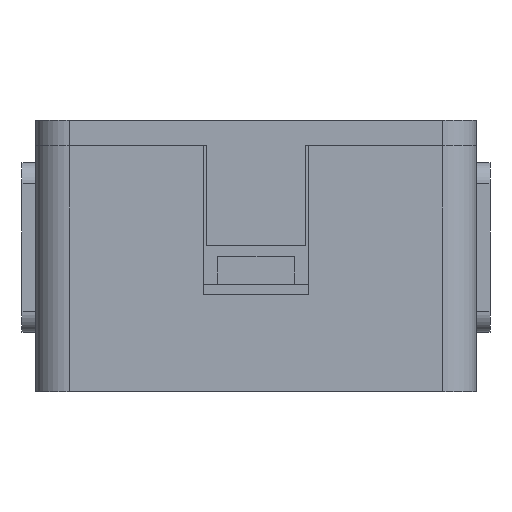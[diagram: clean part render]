
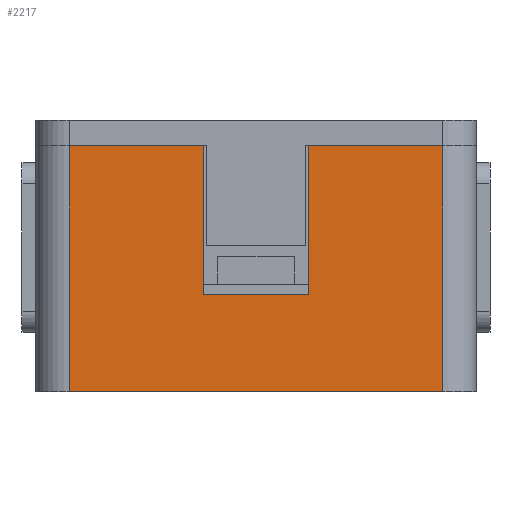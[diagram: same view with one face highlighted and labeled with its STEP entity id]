
A CAD part, left-side view. The second image highlights one B-rep face of the part: STEP entity #2217.
In plain terms, the highlighted planar face has unit normal (-1, 0, 0).
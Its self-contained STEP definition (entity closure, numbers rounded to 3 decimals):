
#98 = PLANE('',#99);
#99 = AXIS2_PLACEMENT_3D('',#100,#101,#102);
#100 = CARTESIAN_POINT('',(0.,0.,0.));
#101 = DIRECTION('',(0.,0.,1.));
#102 = DIRECTION('',(1.,0.,-0.));
#126 = CYLINDRICAL_SURFACE('',#127,4.);
#127 = AXIS2_PLACEMENT_3D('',#128,#129,#130);
#128 = CARTESIAN_POINT('',(-27.,-22.,0.));
#129 = DIRECTION('',(0.,0.,1.));
#130 = DIRECTION('',(0.,-1.,0.));
#154 = PLANE('',#155);
#155 = AXIS2_PLACEMENT_3D('',#156,#157,#158);
#156 = CARTESIAN_POINT('',(0.,0.,29.));
#157 = DIRECTION('',(0.,0.,1.));
#158 = DIRECTION('',(1.,0.,-0.));
#602 = VERTEX_POINT('',#603);
#603 = CARTESIAN_POINT('',(-31.,22.,0.));
#618 = CYLINDRICAL_SURFACE('',#619,4.);
#619 = AXIS2_PLACEMENT_3D('',#620,#621,#622);
#620 = CARTESIAN_POINT('',(-27.,22.,0.));
#621 = DIRECTION('',(0.,0.,1.));
#622 = DIRECTION('',(-0.,1.,0.));
#630 = EDGE_CURVE('',#602,#631,#633,.T.);
#631 = VERTEX_POINT('',#632);
#632 = CARTESIAN_POINT('',(-31.,-22.,0.));
#633 = SURFACE_CURVE('',#634,(#638,#645),.PCURVE_S1.);
#634 = LINE('',#635,#636);
#635 = CARTESIAN_POINT('',(-31.,26.,0.));
#636 = VECTOR('',#637,1.);
#637 = DIRECTION('',(0.,-1.,0.));
#638 = PCURVE('',#98,#639);
#639 = DEFINITIONAL_REPRESENTATION('',(#640),#644);
#640 = LINE('',#641,#642);
#641 = CARTESIAN_POINT('',(-31.,26.));
#642 = VECTOR('',#643,1.);
#643 = DIRECTION('',(0.,-1.));
#644 = ( GEOMETRIC_REPRESENTATION_CONTEXT(2) 
PARAMETRIC_REPRESENTATION_CONTEXT() REPRESENTATION_CONTEXT('2D SPACE',''
  ) );
#645 = PCURVE('',#646,#651);
#646 = PLANE('',#647);
#647 = AXIS2_PLACEMENT_3D('',#648,#649,#650);
#648 = CARTESIAN_POINT('',(-31.,26.,0.));
#649 = DIRECTION('',(1.,0.,-0.));
#650 = DIRECTION('',(0.,-1.,0.));
#651 = DEFINITIONAL_REPRESENTATION('',(#652),#656);
#652 = LINE('',#653,#654);
#653 = CARTESIAN_POINT('',(0.,0.));
#654 = VECTOR('',#655,1.);
#655 = DIRECTION('',(1.,0.));
#656 = ( GEOMETRIC_REPRESENTATION_CONTEXT(2) 
PARAMETRIC_REPRESENTATION_CONTEXT() REPRESENTATION_CONTEXT('2D SPACE',''
  ) );
#688 = EDGE_CURVE('',#631,#689,#691,.T.);
#689 = VERTEX_POINT('',#690);
#690 = CARTESIAN_POINT('',(-31.,-22.,29.));
#691 = SURFACE_CURVE('',#692,(#696,#703),.PCURVE_S1.);
#692 = LINE('',#693,#694);
#693 = CARTESIAN_POINT('',(-31.,-22.,0.));
#694 = VECTOR('',#695,1.);
#695 = DIRECTION('',(0.,0.,1.));
#696 = PCURVE('',#126,#697);
#697 = DEFINITIONAL_REPRESENTATION('',(#698),#702);
#698 = LINE('',#699,#700);
#699 = CARTESIAN_POINT('',(-1.571,0.));
#700 = VECTOR('',#701,1.);
#701 = DIRECTION('',(-0.,1.));
#702 = ( GEOMETRIC_REPRESENTATION_CONTEXT(2) 
PARAMETRIC_REPRESENTATION_CONTEXT() REPRESENTATION_CONTEXT('2D SPACE',''
  ) );
#703 = PCURVE('',#646,#704);
#704 = DEFINITIONAL_REPRESENTATION('',(#705),#709);
#705 = LINE('',#706,#707);
#706 = CARTESIAN_POINT('',(48.,0.));
#707 = VECTOR('',#708,1.);
#708 = DIRECTION('',(0.,-1.));
#709 = ( GEOMETRIC_REPRESENTATION_CONTEXT(2) 
PARAMETRIC_REPRESENTATION_CONTEXT() REPRESENTATION_CONTEXT('2D SPACE',''
  ) );
#865 = VERTEX_POINT('',#866);
#866 = CARTESIAN_POINT('',(-31.,22.,29.));
#888 = EDGE_CURVE('',#865,#889,#891,.T.);
#889 = VERTEX_POINT('',#890);
#890 = CARTESIAN_POINT('',(-31.,6.2,29.));
#891 = SURFACE_CURVE('',#892,(#896,#903),.PCURVE_S1.);
#892 = LINE('',#893,#894);
#893 = CARTESIAN_POINT('',(-31.,26.,29.));
#894 = VECTOR('',#895,1.);
#895 = DIRECTION('',(0.,-1.,0.));
#896 = PCURVE('',#154,#897);
#897 = DEFINITIONAL_REPRESENTATION('',(#898),#902);
#898 = LINE('',#899,#900);
#899 = CARTESIAN_POINT('',(-31.,26.));
#900 = VECTOR('',#901,1.);
#901 = DIRECTION('',(0.,-1.));
#902 = ( GEOMETRIC_REPRESENTATION_CONTEXT(2) 
PARAMETRIC_REPRESENTATION_CONTEXT() REPRESENTATION_CONTEXT('2D SPACE',''
  ) );
#903 = PCURVE('',#646,#904);
#904 = DEFINITIONAL_REPRESENTATION('',(#905),#909);
#905 = LINE('',#906,#907);
#906 = CARTESIAN_POINT('',(0.,-29.));
#907 = VECTOR('',#908,1.);
#908 = DIRECTION('',(1.,0.));
#909 = ( GEOMETRIC_REPRESENTATION_CONTEXT(2) 
PARAMETRIC_REPRESENTATION_CONTEXT() REPRESENTATION_CONTEXT('2D SPACE',''
  ) );
#927 = PLANE('',#928);
#928 = AXIS2_PLACEMENT_3D('',#929,#930,#931);
#929 = CARTESIAN_POINT('',(-34.,6.2,11.4));
#930 = DIRECTION('',(0.,1.,0.));
#931 = DIRECTION('',(0.,0.,1.));
#1293 = VERTEX_POINT('',#1294);
#1294 = CARTESIAN_POINT('',(-31.,-6.2,29.));
#1308 = PLANE('',#1309);
#1309 = AXIS2_PLACEMENT_3D('',#1310,#1311,#1312);
#1310 = CARTESIAN_POINT('',(-34.,-6.2,11.4));
#1311 = DIRECTION('',(0.,1.,0.));
#1312 = DIRECTION('',(0.,0.,1.));
#1319 = EDGE_CURVE('',#1293,#689,#1320,.T.);
#1320 = SURFACE_CURVE('',#1321,(#1325,#1332),.PCURVE_S1.);
#1321 = LINE('',#1322,#1323);
#1322 = CARTESIAN_POINT('',(-31.,26.,29.));
#1323 = VECTOR('',#1324,1.);
#1324 = DIRECTION('',(0.,-1.,0.));
#1325 = PCURVE('',#154,#1326);
#1326 = DEFINITIONAL_REPRESENTATION('',(#1327),#1331);
#1327 = LINE('',#1328,#1329);
#1328 = CARTESIAN_POINT('',(-31.,26.));
#1329 = VECTOR('',#1330,1.);
#1330 = DIRECTION('',(0.,-1.));
#1331 = ( GEOMETRIC_REPRESENTATION_CONTEXT(2) 
PARAMETRIC_REPRESENTATION_CONTEXT() REPRESENTATION_CONTEXT('2D SPACE',''
  ) );
#1332 = PCURVE('',#646,#1333);
#1333 = DEFINITIONAL_REPRESENTATION('',(#1334),#1338);
#1334 = LINE('',#1335,#1336);
#1335 = CARTESIAN_POINT('',(0.,-29.));
#1336 = VECTOR('',#1337,1.);
#1337 = DIRECTION('',(1.,0.));
#1338 = ( GEOMETRIC_REPRESENTATION_CONTEXT(2) 
PARAMETRIC_REPRESENTATION_CONTEXT() REPRESENTATION_CONTEXT('2D SPACE',''
  ) );
#2217 = ADVANCED_FACE('',(#2218),#646,.F.);
#2218 = FACE_BOUND('',#2219,.F.);
#2219 = EDGE_LOOP('',(#2220,#2221,#2242,#2243,#2264,#2290,#2309,#2310));
#2220 = ORIENTED_EDGE('',*,*,#630,.F.);
#2221 = ORIENTED_EDGE('',*,*,#2222,.T.);
#2222 = EDGE_CURVE('',#602,#865,#2223,.T.);
#2223 = SURFACE_CURVE('',#2224,(#2228,#2235),.PCURVE_S1.);
#2224 = LINE('',#2225,#2226);
#2225 = CARTESIAN_POINT('',(-31.,22.,0.));
#2226 = VECTOR('',#2227,1.);
#2227 = DIRECTION('',(0.,0.,1.));
#2228 = PCURVE('',#646,#2229);
#2229 = DEFINITIONAL_REPRESENTATION('',(#2230),#2234);
#2230 = LINE('',#2231,#2232);
#2231 = CARTESIAN_POINT('',(4.,0.));
#2232 = VECTOR('',#2233,1.);
#2233 = DIRECTION('',(0.,-1.));
#2234 = ( GEOMETRIC_REPRESENTATION_CONTEXT(2) 
PARAMETRIC_REPRESENTATION_CONTEXT() REPRESENTATION_CONTEXT('2D SPACE',''
  ) );
#2235 = PCURVE('',#618,#2236);
#2236 = DEFINITIONAL_REPRESENTATION('',(#2237),#2241);
#2237 = LINE('',#2238,#2239);
#2238 = CARTESIAN_POINT('',(1.571,0.));
#2239 = VECTOR('',#2240,1.);
#2240 = DIRECTION('',(0.,1.));
#2241 = ( GEOMETRIC_REPRESENTATION_CONTEXT(2) 
PARAMETRIC_REPRESENTATION_CONTEXT() REPRESENTATION_CONTEXT('2D SPACE',''
  ) );
#2242 = ORIENTED_EDGE('',*,*,#888,.T.);
#2243 = ORIENTED_EDGE('',*,*,#2244,.F.);
#2244 = EDGE_CURVE('',#2245,#889,#2247,.T.);
#2245 = VERTEX_POINT('',#2246);
#2246 = CARTESIAN_POINT('',(-31.,6.2,11.4));
#2247 = SURFACE_CURVE('',#2248,(#2252,#2258),.PCURVE_S1.);
#2248 = LINE('',#2249,#2250);
#2249 = CARTESIAN_POINT('',(-31.,6.2,5.7));
#2250 = VECTOR('',#2251,1.);
#2251 = DIRECTION('',(0.,-0.,1.));
#2252 = PCURVE('',#646,#2253);
#2253 = DEFINITIONAL_REPRESENTATION('',(#2254),#2257);
#2254 = B_SPLINE_CURVE_WITH_KNOTS('',1,(#2255,#2256),.UNSPECIFIED.,.F.,
  .F.,(2,2),(5.7,23.3),.PIECEWISE_BEZIER_KNOTS.);
#2255 = CARTESIAN_POINT('',(19.8,-11.4));
#2256 = CARTESIAN_POINT('',(19.8,-29.));
#2257 = ( GEOMETRIC_REPRESENTATION_CONTEXT(2) 
PARAMETRIC_REPRESENTATION_CONTEXT() REPRESENTATION_CONTEXT('2D SPACE',''
  ) );
#2258 = PCURVE('',#927,#2259);
#2259 = DEFINITIONAL_REPRESENTATION('',(#2260),#2263);
#2260 = B_SPLINE_CURVE_WITH_KNOTS('',1,(#2261,#2262),.UNSPECIFIED.,.F.,
  .F.,(2,2),(5.7,23.3),.PIECEWISE_BEZIER_KNOTS.);
#2261 = CARTESIAN_POINT('',(0.,3.));
#2262 = CARTESIAN_POINT('',(17.6,3.));
#2263 = ( GEOMETRIC_REPRESENTATION_CONTEXT(2) 
PARAMETRIC_REPRESENTATION_CONTEXT() REPRESENTATION_CONTEXT('2D SPACE',''
  ) );
#2264 = ORIENTED_EDGE('',*,*,#2265,.T.);
#2265 = EDGE_CURVE('',#2245,#2266,#2268,.T.);
#2266 = VERTEX_POINT('',#2267);
#2267 = CARTESIAN_POINT('',(-31.,-6.2,11.4));
#2268 = SURFACE_CURVE('',#2269,(#2273,#2279),.PCURVE_S1.);
#2269 = LINE('',#2270,#2271);
#2270 = CARTESIAN_POINT('',(-31.,9.9,11.4));
#2271 = VECTOR('',#2272,1.);
#2272 = DIRECTION('',(0.,-1.,0.));
#2273 = PCURVE('',#646,#2274);
#2274 = DEFINITIONAL_REPRESENTATION('',(#2275),#2278);
#2275 = B_SPLINE_CURVE_WITH_KNOTS('',1,(#2276,#2277),.UNSPECIFIED.,.F.,
  .F.,(2,2),(3.7,16.1),.PIECEWISE_BEZIER_KNOTS.);
#2276 = CARTESIAN_POINT('',(19.8,-11.4));
#2277 = CARTESIAN_POINT('',(32.2,-11.4));
#2278 = ( GEOMETRIC_REPRESENTATION_CONTEXT(2) 
PARAMETRIC_REPRESENTATION_CONTEXT() REPRESENTATION_CONTEXT('2D SPACE',''
  ) );
#2279 = PCURVE('',#2280,#2285);
#2280 = PLANE('',#2281);
#2281 = AXIS2_PLACEMENT_3D('',#2282,#2283,#2284);
#2282 = CARTESIAN_POINT('',(-34.,-6.2,11.4));
#2283 = DIRECTION('',(0.,0.,1.));
#2284 = DIRECTION('',(1.,0.,0.));
#2285 = DEFINITIONAL_REPRESENTATION('',(#2286),#2289);
#2286 = B_SPLINE_CURVE_WITH_KNOTS('',1,(#2287,#2288),.UNSPECIFIED.,.F.,
  .F.,(2,2),(3.7,16.1),.PIECEWISE_BEZIER_KNOTS.);
#2287 = CARTESIAN_POINT('',(3.,12.4));
#2288 = CARTESIAN_POINT('',(3.,0.));
#2289 = ( GEOMETRIC_REPRESENTATION_CONTEXT(2) 
PARAMETRIC_REPRESENTATION_CONTEXT() REPRESENTATION_CONTEXT('2D SPACE',''
  ) );
#2290 = ORIENTED_EDGE('',*,*,#2291,.T.);
#2291 = EDGE_CURVE('',#2266,#1293,#2292,.T.);
#2292 = SURFACE_CURVE('',#2293,(#2297,#2303),.PCURVE_S1.);
#2293 = LINE('',#2294,#2295);
#2294 = CARTESIAN_POINT('',(-31.,-6.2,5.7));
#2295 = VECTOR('',#2296,1.);
#2296 = DIRECTION('',(0.,-0.,1.));
#2297 = PCURVE('',#646,#2298);
#2298 = DEFINITIONAL_REPRESENTATION('',(#2299),#2302);
#2299 = B_SPLINE_CURVE_WITH_KNOTS('',1,(#2300,#2301),.UNSPECIFIED.,.F.,
  .F.,(2,2),(5.7,23.3),.PIECEWISE_BEZIER_KNOTS.);
#2300 = CARTESIAN_POINT('',(32.2,-11.4));
#2301 = CARTESIAN_POINT('',(32.2,-29.));
#2302 = ( GEOMETRIC_REPRESENTATION_CONTEXT(2) 
PARAMETRIC_REPRESENTATION_CONTEXT() REPRESENTATION_CONTEXT('2D SPACE',''
  ) );
#2303 = PCURVE('',#1308,#2304);
#2304 = DEFINITIONAL_REPRESENTATION('',(#2305),#2308);
#2305 = B_SPLINE_CURVE_WITH_KNOTS('',1,(#2306,#2307),.UNSPECIFIED.,.F.,
  .F.,(2,2),(5.7,23.3),.PIECEWISE_BEZIER_KNOTS.);
#2306 = CARTESIAN_POINT('',(0.,3.));
#2307 = CARTESIAN_POINT('',(17.6,3.));
#2308 = ( GEOMETRIC_REPRESENTATION_CONTEXT(2) 
PARAMETRIC_REPRESENTATION_CONTEXT() REPRESENTATION_CONTEXT('2D SPACE',''
  ) );
#2309 = ORIENTED_EDGE('',*,*,#1319,.T.);
#2310 = ORIENTED_EDGE('',*,*,#688,.F.);
